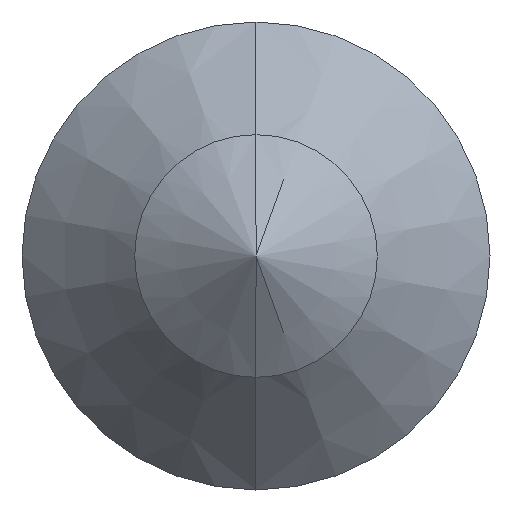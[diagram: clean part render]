
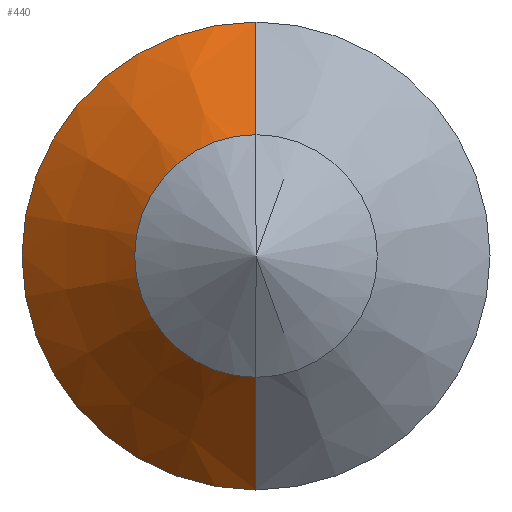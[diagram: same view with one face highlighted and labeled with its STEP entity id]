
A CAD part, left-side view. The second image highlights one B-rep face of the part: STEP entity #440.
In plain terms, the highlighted conical face has half-angle 45 degrees and reference radius 2.7 mm.
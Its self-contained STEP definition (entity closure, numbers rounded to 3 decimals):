
#20 = CARTESIAN_POINT ( 'NONE',  ( 0.098, 0., 0. ) ) ;
#33 = VECTOR ( 'NONE', #147, 1000. ) ;
#72 = ORIENTED_EDGE ( 'NONE', *, *, #627, .T. ) ;
#105 = AXIS2_PLACEMENT_3D ( 'NONE', #20, #1025, #153 ) ;
#106 = AXIS2_PLACEMENT_3D ( 'NONE', #312, #1287, #477 ) ;
#131 = AXIS2_PLACEMENT_3D ( 'NONE', #1318, #1435, #366 ) ;
#147 = DIRECTION ( 'NONE',  ( 0.707, 0., -0.707 ) ) ;
#153 = DIRECTION ( 'NONE',  ( 0., 0., -1. ) ) ;
#312 = CARTESIAN_POINT ( 'NONE',  ( 1.493, 0., 0. ) ) ;
#366 = DIRECTION ( 'NONE',  ( 0., 0., -1. ) ) ;
#440 = ADVANCED_FACE ( 'NONE', ( #892 ), #851, .T. ) ;
#451 = CIRCLE ( 'NONE', #106, 2.7 ) ;
#477 = DIRECTION ( 'NONE',  ( 0., 0., -1. ) ) ;
#610 = VERTEX_POINT ( 'NONE', #875 ) ;
#616 = EDGE_CURVE ( 'NONE', #816, #610, #1556, .T. ) ;
#618 = EDGE_CURVE ( 'NONE', #610, #1505, #451, .T. ) ;
#620 = EDGE_CURVE ( 'NONE', #1643, #1505, #1450, .T. ) ;
#627 = EDGE_CURVE ( 'NONE', #816, #1643, #1138, .T. ) ;
#764 = VECTOR ( 'NONE', #1018, 1000. ) ;
#767 = CARTESIAN_POINT ( 'NONE',  ( 1.493, 0., 2.7 ) ) ;
#816 = VERTEX_POINT ( 'NONE', #1471 ) ;
#851 = CONICAL_SURFACE ( 'NONE', #131, 2.7, 0.785 ) ;
#875 = CARTESIAN_POINT ( 'NONE',  ( 1.493, 0., -2.7 ) ) ;
#892 = FACE_OUTER_BOUND ( 'NONE', #1069, .T. ) ;
#1018 = DIRECTION ( 'NONE',  ( 0.707, 0., 0.707 ) ) ;
#1025 = DIRECTION ( 'NONE',  ( 1., 0., 0. ) ) ;
#1069 = EDGE_LOOP ( 'NONE', ( #72, #1687, #1483, #1173 ) ) ;
#1138 = CIRCLE ( 'NONE', #105, 1.304 ) ;
#1165 = CARTESIAN_POINT ( 'NONE',  ( 1.493, 0., 2.7 ) ) ;
#1173 = ORIENTED_EDGE ( 'NONE', *, *, #616, .F. ) ;
#1188 = CARTESIAN_POINT ( 'NONE',  ( 0.098, 0., 1.304 ) ) ;
#1283 = CARTESIAN_POINT ( 'NONE',  ( 1.493, 0., -2.7 ) ) ;
#1287 = DIRECTION ( 'NONE',  ( 1., 0., 0. ) ) ;
#1318 = CARTESIAN_POINT ( 'NONE',  ( 1.493, 0., 0. ) ) ;
#1435 = DIRECTION ( 'NONE',  ( 1., 0., 0. ) ) ;
#1450 = LINE ( 'NONE', #1165, #764 ) ;
#1471 = CARTESIAN_POINT ( 'NONE',  ( 0.098, 0., -1.304 ) ) ;
#1483 = ORIENTED_EDGE ( 'NONE', *, *, #618, .F. ) ;
#1505 = VERTEX_POINT ( 'NONE', #767 ) ;
#1556 = LINE ( 'NONE', #1283, #33 ) ;
#1643 = VERTEX_POINT ( 'NONE', #1188 ) ;
#1687 = ORIENTED_EDGE ( 'NONE', *, *, #620, .T. ) ;
